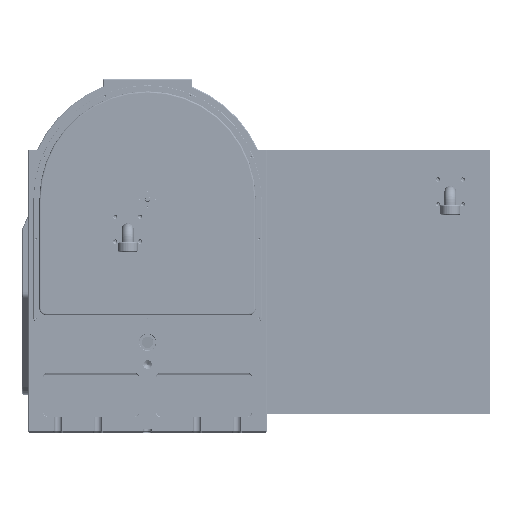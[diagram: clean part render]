
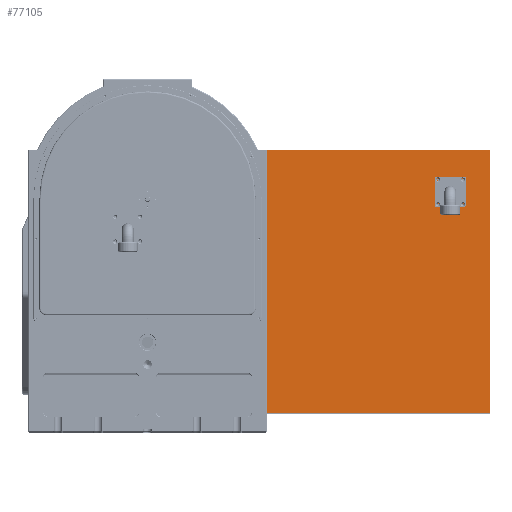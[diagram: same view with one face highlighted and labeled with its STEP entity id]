
A CAD part, top view. The second image highlights one B-rep face of the part: STEP entity #77105.
In plain terms, the highlighted planar face has unit normal (0, 0, 1).
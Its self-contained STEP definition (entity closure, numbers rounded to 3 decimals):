
#2550 = CARTESIAN_POINT ( 'NONE',  ( -63.058, 276.371, 2551.456 ) ) ;
#2977 = EDGE_CURVE ( 'NONE', #74626, #164428, #29653, .T. ) ;
#4368 = AXIS2_PLACEMENT_3D ( 'NONE', #52658, #179326, #48961 ) ;
#5953 = AXIS2_PLACEMENT_3D ( 'NONE', #105962, #19783, #134117 ) ;
#6287 = ORIENTED_EDGE ( 'NONE', *, *, #7096, .F. ) ;
#6613 = CARTESIAN_POINT ( 'NONE',  ( -78.058, 276.371, 2551.456 ) ) ;
#7096 = EDGE_CURVE ( 'NONE', #127569, #169308, #75498, .T. ) ;
#7510 = ORIENTED_EDGE ( 'NONE', *, *, #122431, .F. ) ;
#11380 = CARTESIAN_POINT ( 'NONE',  ( 266.942, 216.371, 2551.456 ) ) ;
#12999 = CARTESIAN_POINT ( 'NONE',  ( 316.942, 216.371, 2551.456 ) ) ;
#15618 = EDGE_CURVE ( 'NONE', #128573, #38172, #17674, .T. ) ;
#15710 = FACE_BOUND ( 'NONE', #163128, .T. ) ;
#17577 = FACE_BOUND ( 'NONE', #150222, .T. ) ;
#17674 = CIRCLE ( 'NONE', #146398, 2.025 ) ;
#19359 = CARTESIAN_POINT ( 'NONE',  ( 318.967, 216.371, 2551.456 ) ) ;
#19455 = AXIS2_PLACEMENT_3D ( 'NONE', #12999, #42924, #110504 ) ;
#19783 = DIRECTION ( 'NONE',  ( 0., 0., 1. ) ) ;
#21026 = CARTESIAN_POINT ( 'NONE',  ( 316.942, 166.371, 2551.456 ) ) ;
#24121 = CARTESIAN_POINT ( 'NONE',  ( -78.058, -253.629, 2551.456 ) ) ;
#27001 = LINE ( 'NONE', #72820, #166629 ) ;
#27761 = AXIS2_PLACEMENT_3D ( 'NONE', #154629, #142355, #173320 ) ;
#28420 = EDGE_CURVE ( 'NONE', #94203, #40011, #132330, .T. ) ;
#29653 = CIRCLE ( 'NONE', #65628, 2.025 ) ;
#29737 = DIRECTION ( 'NONE',  ( 1., 0., 0. ) ) ;
#30681 = FACE_BOUND ( 'NONE', #83732, .T. ) ;
#32580 = DIRECTION ( 'NONE',  ( 0., -1., 0. ) ) ;
#33431 = CARTESIAN_POINT ( 'NONE',  ( 266.942, 216.371, 2551.456 ) ) ;
#35134 = AXIS2_PLACEMENT_3D ( 'NONE', #21026, #93114, #78158 ) ;
#36740 = EDGE_LOOP ( 'NONE', ( #90587, #108362, #6287, #152221 ) ) ;
#38138 = CARTESIAN_POINT ( 'NONE',  ( 291.942, 216.371, 2551.456 ) ) ;
#38172 = VERTEX_POINT ( 'NONE', #19359 ) ;
#39566 = EDGE_LOOP ( 'NONE', ( #173505, #7510 ) ) ;
#39908 = EDGE_CURVE ( 'NONE', #127313, #170561, #115945, .T. ) ;
#40011 = VERTEX_POINT ( 'NONE', #125905 ) ;
#42924 = DIRECTION ( 'NONE',  ( 0., 0., 1. ) ) ;
#43092 = AXIS2_PLACEMENT_3D ( 'NONE', #33431, #77452, #90550 ) ;
#43833 = CARTESIAN_POINT ( 'NONE',  ( 371.942, 276.371, 2551.456 ) ) ;
#46852 = DIRECTION ( 'NONE',  ( 1., 0., 0. ) ) ;
#48539 = AXIS2_PLACEMENT_3D ( 'NONE', #121541, #149719, #46852 ) ;
#48961 = DIRECTION ( 'NONE',  ( 1., 0., 0. ) ) ;
#50972 = ORIENTED_EDGE ( 'NONE', *, *, #91835, .F. ) ;
#51174 = CARTESIAN_POINT ( 'NONE',  ( 371.942, -253.629, 2551.456 ) ) ;
#52658 = CARTESIAN_POINT ( 'NONE',  ( 266.942, 166.371, 2551.456 ) ) ;
#55615 = AXIS2_PLACEMENT_3D ( 'NONE', #157315, #143233, #32580 ) ;
#59342 = ORIENTED_EDGE ( 'NONE', *, *, #67563, .T. ) ;
#59647 = EDGE_CURVE ( 'NONE', #170561, #127313, #134680, .T. ) ;
#64219 = CIRCLE ( 'NONE', #19455, 2.025 ) ;
#64412 = DIRECTION ( 'NONE',  ( 0., 0., 1. ) ) ;
#64559 = ORIENTED_EDGE ( 'NONE', *, *, #125190, .F. ) ;
#65361 = CARTESIAN_POINT ( 'NONE',  ( 316.942, 216.371, 2551.456 ) ) ;
#65628 = AXIS2_PLACEMENT_3D ( 'NONE', #11380, #183882, #184822 ) ;
#67563 = EDGE_CURVE ( 'NONE', #108287, #115545, #177392, .T. ) ;
#68299 = ORIENTED_EDGE ( 'NONE', *, *, #167097, .T. ) ;
#70426 = DIRECTION ( 'NONE',  ( 1., 0., 0. ) ) ;
#72820 = CARTESIAN_POINT ( 'NONE',  ( -63.058, -253.629, 2551.456 ) ) ;
#72856 = DIRECTION ( 'NONE',  ( 0., 0., -1. ) ) ;
#74626 = VERTEX_POINT ( 'NONE', #132979 ) ;
#75498 = LINE ( 'NONE', #117664, #135435 ) ;
#77105 = ADVANCED_FACE ( 'NONE', ( #17577, #86908, #144112, #15710, #145973, #30681 ), #175060, .F. ) ;
#77452 = DIRECTION ( 'NONE',  ( 0., 0., 1. ) ) ;
#78158 = DIRECTION ( 'NONE',  ( 1., 0., 0. ) ) ;
#78952 = CIRCLE ( 'NONE', #43092, 2.025 ) ;
#81696 = CARTESIAN_POINT ( 'NONE',  ( -63.058, 276.371, 2551.456 ) ) ;
#83732 = EDGE_LOOP ( 'NONE', ( #50972, #105553 ) ) ;
#86908 = FACE_OUTER_BOUND ( 'NONE', #36740, .T. ) ;
#87940 = CARTESIAN_POINT ( 'NONE',  ( 314.917, 216.371, 2551.456 ) ) ;
#90244 = VERTEX_POINT ( 'NONE', #161252 ) ;
#90550 = DIRECTION ( 'NONE',  ( 1., 0., 0. ) ) ;
#90587 = ORIENTED_EDGE ( 'NONE', *, *, #94439, .T. ) ;
#91835 = EDGE_CURVE ( 'NONE', #38172, #128573, #64219, .T. ) ;
#93114 = DIRECTION ( 'NONE',  ( 0., 0., 1. ) ) ;
#93607 = CARTESIAN_POINT ( 'NONE',  ( 268.967, 166.371, 2551.456 ) ) ;
#94203 = VERTEX_POINT ( 'NONE', #93607 ) ;
#94439 = EDGE_CURVE ( 'NONE', #96507, #90244, #97313, .T. ) ;
#96507 = VERTEX_POINT ( 'NONE', #51174 ) ;
#97313 = LINE ( 'NONE', #43833, #167000 ) ;
#97721 = CARTESIAN_POINT ( 'NONE',  ( 268.967, 216.371, 2551.456 ) ) ;
#102820 = CARTESIAN_POINT ( 'NONE',  ( 291.942, 166.371, 2551.456 ) ) ;
#105553 = ORIENTED_EDGE ( 'NONE', *, *, #15618, .F. ) ;
#105962 = CARTESIAN_POINT ( 'NONE',  ( 316.942, 166.371, 2551.456 ) ) ;
#107232 = AXIS2_PLACEMENT_3D ( 'NONE', #2550, #72856, #130053 ) ;
#108287 = VERTEX_POINT ( 'NONE', #102820 ) ;
#108362 = ORIENTED_EDGE ( 'NONE', *, *, #112902, .F. ) ;
#110504 = DIRECTION ( 'NONE',  ( 1., 0., 0. ) ) ;
#111679 = LINE ( 'NONE', #81696, #162601 ) ;
#112310 = DIRECTION ( 'NONE',  ( 0., 1., 0. ) ) ;
#112902 = EDGE_CURVE ( 'NONE', #169308, #90244, #111679, .T. ) ;
#114014 = ORIENTED_EDGE ( 'NONE', *, *, #59647, .F. ) ;
#115114 = CARTESIAN_POINT ( 'NONE',  ( 318.967, 166.371, 2551.456 ) ) ;
#115545 = VERTEX_POINT ( 'NONE', #38138 ) ;
#115945 = CIRCLE ( 'NONE', #35134, 2.025 ) ;
#117664 = CARTESIAN_POINT ( 'NONE',  ( -78.058, -253.629, 2551.456 ) ) ;
#121541 = CARTESIAN_POINT ( 'NONE',  ( 266.942, 166.371, 2551.456 ) ) ;
#122431 = EDGE_CURVE ( 'NONE', #40011, #94203, #184027, .T. ) ;
#125190 = EDGE_CURVE ( 'NONE', #164428, #74626, #78952, .T. ) ;
#125905 = CARTESIAN_POINT ( 'NONE',  ( 264.917, 166.371, 2551.456 ) ) ;
#127313 = VERTEX_POINT ( 'NONE', #115114 ) ;
#127569 = VERTEX_POINT ( 'NONE', #24121 ) ;
#128573 = VERTEX_POINT ( 'NONE', #87940 ) ;
#130053 = DIRECTION ( 'NONE',  ( 0., -1., 0. ) ) ;
#132330 = CIRCLE ( 'NONE', #48539, 2.025 ) ;
#132728 = EDGE_CURVE ( 'NONE', #127569, #96507, #27001, .T. ) ;
#132979 = CARTESIAN_POINT ( 'NONE',  ( 264.917, 216.371, 2551.456 ) ) ;
#134117 = DIRECTION ( 'NONE',  ( 1., 0., 0. ) ) ;
#134680 = CIRCLE ( 'NONE', #5953, 2.025 ) ;
#135435 = VECTOR ( 'NONE', #174926, 1000. ) ;
#136467 = CIRCLE ( 'NONE', #55615, 25. ) ;
#142355 = DIRECTION ( 'NONE',  ( 0., 0., -1. ) ) ;
#143233 = DIRECTION ( 'NONE',  ( 0., 0., -1. ) ) ;
#144112 = FACE_BOUND ( 'NONE', #173289, .T. ) ;
#145973 = FACE_BOUND ( 'NONE', #39566, .T. ) ;
#146398 = AXIS2_PLACEMENT_3D ( 'NONE', #65361, #64412, #177926 ) ;
#149719 = DIRECTION ( 'NONE',  ( 0., 0., 1. ) ) ;
#150222 = EDGE_LOOP ( 'NONE', ( #64559, #164504 ) ) ;
#152221 = ORIENTED_EDGE ( 'NONE', *, *, #132728, .T. ) ;
#152857 = CARTESIAN_POINT ( 'NONE',  ( 314.917, 166.371, 2551.456 ) ) ;
#154629 = CARTESIAN_POINT ( 'NONE',  ( 291.942, 191.371, 2551.456 ) ) ;
#154819 = ORIENTED_EDGE ( 'NONE', *, *, #39908, .F. ) ;
#157315 = CARTESIAN_POINT ( 'NONE',  ( 291.942, 191.371, 2551.456 ) ) ;
#161252 = CARTESIAN_POINT ( 'NONE',  ( 371.942, 276.371, 2551.456 ) ) ;
#162601 = VECTOR ( 'NONE', #70426, 1000. ) ;
#163128 = EDGE_LOOP ( 'NONE', ( #154819, #114014 ) ) ;
#164428 = VERTEX_POINT ( 'NONE', #97721 ) ;
#164504 = ORIENTED_EDGE ( 'NONE', *, *, #2977, .F. ) ;
#166629 = VECTOR ( 'NONE', #29737, 1000. ) ;
#167000 = VECTOR ( 'NONE', #112310, 1000. ) ;
#167097 = EDGE_CURVE ( 'NONE', #115545, #108287, #136467, .T. ) ;
#169308 = VERTEX_POINT ( 'NONE', #6613 ) ;
#170561 = VERTEX_POINT ( 'NONE', #152857 ) ;
#173289 = EDGE_LOOP ( 'NONE', ( #68299, #59342 ) ) ;
#173320 = DIRECTION ( 'NONE',  ( 0., -1., 0. ) ) ;
#173505 = ORIENTED_EDGE ( 'NONE', *, *, #28420, .F. ) ;
#174926 = DIRECTION ( 'NONE',  ( 0., 1., 0. ) ) ;
#175060 = PLANE ( 'NONE',  #107232 ) ;
#177392 = CIRCLE ( 'NONE', #27761, 25. ) ;
#177926 = DIRECTION ( 'NONE',  ( 1., 0., 0. ) ) ;
#179326 = DIRECTION ( 'NONE',  ( 0., 0., 1. ) ) ;
#183882 = DIRECTION ( 'NONE',  ( 0., 0., 1. ) ) ;
#184027 = CIRCLE ( 'NONE', #4368, 2.025 ) ;
#184822 = DIRECTION ( 'NONE',  ( 1., 0., 0. ) ) ;
